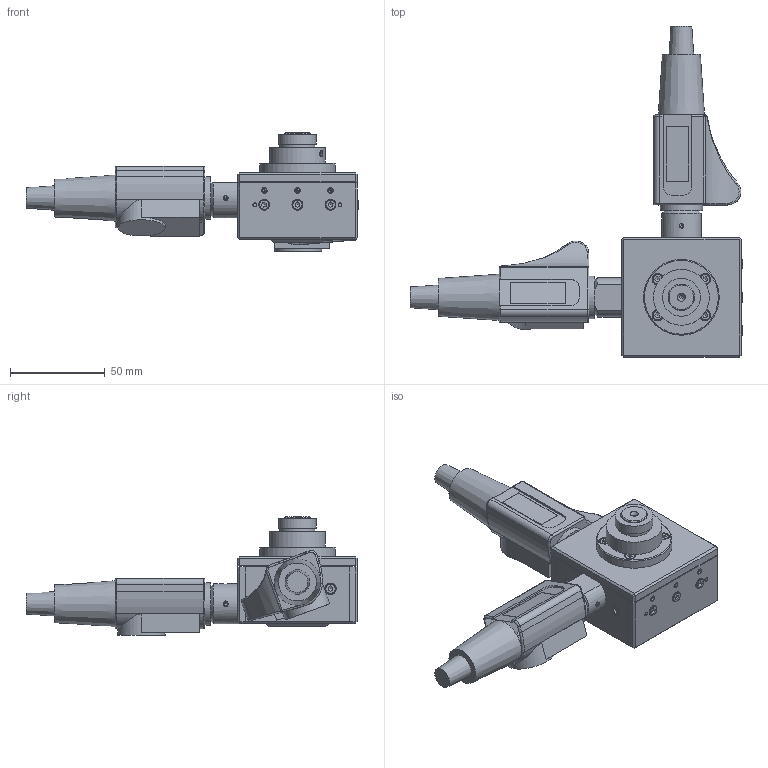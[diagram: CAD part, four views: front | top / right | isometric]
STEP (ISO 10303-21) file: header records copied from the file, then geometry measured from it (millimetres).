
FILE_DESCRIPTION(/* description */ ('Table en croix - 20x20 mm'),/* implementation_level */ '2;1');
FILE_NAME(/* name */ 'S:\Bureau-Technique\Statif\MA 110-2-040.stp',/* time_stamp */ '2019-03-07T09:11:30+01:00',/* author */ ('ms'),/* organization */ ('Marcel Aubert'),/* preprocessor_version */ 'ST-DEVELOPER v17.2',/* originating_system */ 'Autodesk Inventor 2019',/* authorisation */ '');
FILE_SCHEMA (('CONFIG_CONTROL_DESIGN'));
Length unit declared in the file: millimetre
Products named in the file (32): MA 110-2-040; MA 110-2-000; 110-103; 110-105; 110-106; 110-107; 110-108; 110-109; 110-110; 110-112; 110-116; 110-202a; 110-204a; ISO 4762 - M3 x 10; ISO 4026 - M3 x 4; 110-115; 110-113; 110-114; ISO 2338 - 2 h8 x 6 - B; ISO 2338 - 3 h8 x 12 - B; ISO 2338 - 3 h8 x 20; ISO 4762 - M3 x 6; ISO 4762 - M3 x 6_1; BIL-004-03; 67-076-02; 110-101; 110-111; 110-129; BST-60.30039; ISO 4026 - M3 x 4_1; ISO 4762 - M3 x 12; ISO 4027 - M4 x 8
Assembly tree (97 placements, depth 3):
  MA 110-2-040
    MA 110-2-000
      110-103
      110-105
      110-106  x2
      110-107
      110-108
      110-109
      110-110  x4
      110-112
      110-116  x2
      110-202a
      110-204a
      ISO 4762 - M3 x 10  x8
      BIL-004-03  x20
      ISO 4762 - M3 x 6  x10
      ISO 4026 - M3 x 4  x6
      110-115  x4
      110-113  x4
      110-114  x4
      ISO 2338 - 2 h8 x 6 - B  x4
      ISO 2338 - 3 h8 x 12 - B  x2
      ISO 2338 - 3 h8 x 20
      ISO 4762 - M3 x 6_1
    67-076-02
      110-101
      110-111
    110-129
    BST-60.30039  x2
    ISO 4026 - M3 x 4_1  x4
    ISO 4762 - M3 x 12  x4
    ISO 4027 - M4 x 8  x2
Bounding box: 175.3 x 175.3 x 62.6 mm (x, y, z)
Volume: 241422.3 mm3; surface area: 96642.5 mm2
Topology: 99 solids, 99 shells, 1195 faces, 3124 edges, 2144 vertices
Faces by surface type: plane 641, cylinder 282, cone 151, torus 81, sphere 28, bspline 12
Full cylindrical faces by diameter (mm): 0.35 x8, 0.8 x4, 1.567 x4, 2 x22, 2.459 x34, 3 x44, 3.2 x11, 3.242 x6, 3.3 x20, 3.6 x12, 4 x6, 4.9 x1, 5 x1, 5.5 x22, 5.7 x6, 6 x16, 6.5 x6, 12 x4, 13.5 x2, 14 x4, 18.5 x1, 18.95 x1, 20 x1, 20.3 x1, 21 x1, 22.4 x2, 25 x2, 29.5 x1, 30 x1, 40 x1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
Entity records: 23725 total; most frequent: CARTESIAN_POINT 7644, DIRECTION 3246, ORIENTED_EDGE 2846, EDGE_CURVE 1423, AXIS2_PLACEMENT_3D 1271, VERTEX_POINT 1000, EDGE_LOOP 741, LINE 704
